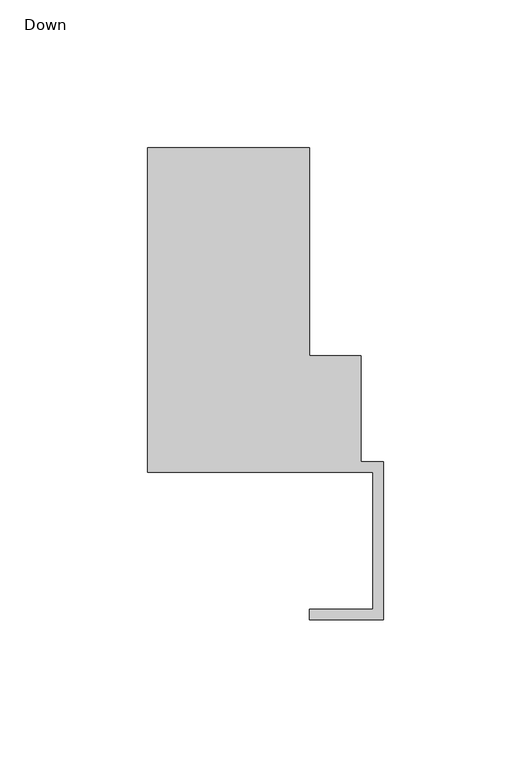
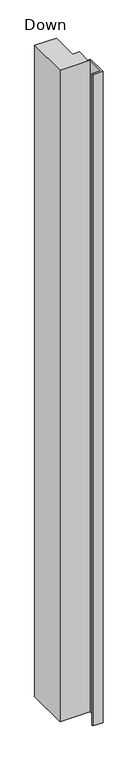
"""IFC4 building model written with IfcOpenShell, lengths in millimetres: member geometry, 長方形マリオン : Down."""

from ifc_helpers import new_model, si_unit, frame, origin, place, context, project, spatial, polyline, outline, extrude, source, transform, mapped, element, save


def down_e4a2a12c(model_context):
    return source(origin(), model_context, "Body", "SweptSolid", [
        extrude(outline(polyline([(-80.0, 136.0040267), (-25.0, 136.0040267), (-25.0, 65.5039342), (-7.5, 65.5039342), (-7.5, 29.5039342), (0.0, 29.5039342), (0.0, -23.9960658), (-25.0, -23.9960658), (-25.0, -20.4960658), (-3.5, -20.4960658), (-3.5, 26.0039342), (-80.0, 26.0039342), (-80.0, 136.0040267)])), frame((0.0, 0.0, -1739.5337945), z_axis=(0.0, 0.0, 1.0), x_axis=(1.0, 0.0, 0.0)), (0.0, 0.0, 1.0), 1739.5337945),
    ])


if __name__ == "__main__":
    model = new_model("IFC4")
    model_context = context("Model", 3, world=origin())
    ifc_project = project(units=[si_unit("LENGTHUNIT", "METRE", prefix="MILLI")], contexts=[model_context])
    site = spatial("IfcSite", under=ifc_project)
    building = spatial("IfcBuilding", under=site)
    placement = place(None, origin())
    down_shape = down_e4a2a12c(model_context)
    element("IfcMember", 1, ObjectType="長方形マリオン : Down", at=placement, inside=building, context=model_context, shape_type="MappedRepresentation", body=[
        mapped(down_shape, transform((0.0, 0.0, 0.0), x_axis=(1.0, 0.0, 0.0), y_axis=(0.0, 1.0, 0.0), z_axis=(0.0, 0.0, 1.0))),
    ])
    save(model, "model.ifc")
